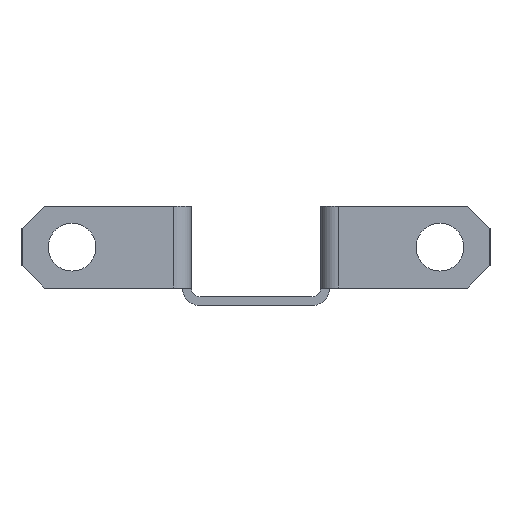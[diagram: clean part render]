
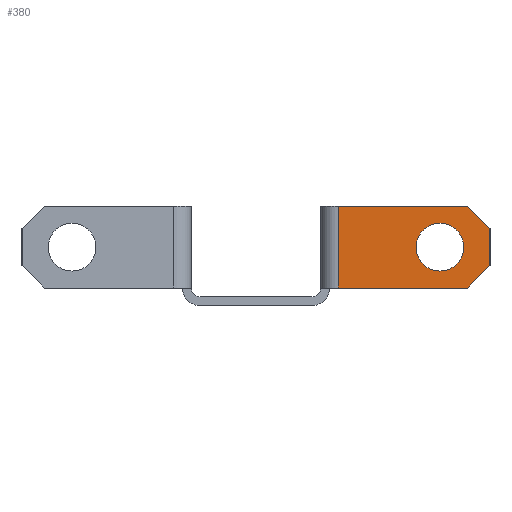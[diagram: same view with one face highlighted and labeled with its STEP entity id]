
A CAD part, left-side view. The second image highlights one B-rep face of the part: STEP entity #380.
In plain terms, the highlighted planar face has unit normal (-1, 0, 0).
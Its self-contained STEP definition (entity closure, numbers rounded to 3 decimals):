
#141 = VERTEX_POINT ( 'NONE', #3031 ) ;
#142 = ORIENTED_EDGE ( 'NONE', *, *, #248, .F. ) ;
#176 = EDGE_CURVE ( 'NONE', #854, #141, #1325, .T. ) ;
#248 = EDGE_CURVE ( 'NONE', #1877, #954, #1486, .T. ) ;
#272 = EDGE_CURVE ( 'NONE', #2413, #3752, #1585, .T. ) ;
#324 = CARTESIAN_POINT ( 'NONE',  ( -142.5, -28.8, 13.5 ) ) ;
#380 = ADVANCED_FACE ( 'NONE', ( #1696, #595 ), #3167, .F. ) ;
#442 = DIRECTION ( 'NONE',  ( 0., -1., 0. ) ) ;
#595 = FACE_OUTER_BOUND ( 'NONE', #3483, .T. ) ;
#636 = ORIENTED_EDGE ( 'NONE', *, *, #1323, .F. ) ;
#724 = CARTESIAN_POINT ( 'NONE',  ( -142.5, -28.25, 7.95 ) ) ;
#777 = CARTESIAN_POINT ( 'NONE',  ( -142.5, -31.8, 5.4 ) ) ;
#784 = ORIENTED_EDGE ( 'NONE', *, *, #272, .T. ) ;
#807 = CARTESIAN_POINT ( 'NONE',  ( -142.5, -28.8, 2.4 ) ) ;
#854 = VERTEX_POINT ( 'NONE', #3133 ) ;
#855 = VERTEX_POINT ( 'NONE', #807 ) ;
#861 = EDGE_LOOP ( 'NONE', ( #142, #1249 ) ) ;
#866 = DIRECTION ( 'NONE',  ( 0., 0.707, 0.707 ) ) ;
#903 = VERTEX_POINT ( 'NONE', #3113 ) ;
#913 = EDGE_CURVE ( 'NONE', #954, #1877, #2435, .T. ) ;
#954 = VERTEX_POINT ( 'NONE', #4226 ) ;
#977 = EDGE_CURVE ( 'NONE', #141, #2413, #1076, .T. ) ;
#1020 = VECTOR ( 'NONE', #2491, 1000. ) ;
#1063 = AXIS2_PLACEMENT_3D ( 'NONE', #1478, #1811, #442 ) ;
#1076 = LINE ( 'NONE', #1574, #3286 ) ;
#1124 = CARTESIAN_POINT ( 'NONE',  ( -142.5, 0., 13.5 ) ) ;
#1249 = ORIENTED_EDGE ( 'NONE', *, *, #913, .F. ) ;
#1317 = EDGE_CURVE ( 'NONE', #855, #854, #3855, .T. ) ;
#1323 = EDGE_CURVE ( 'NONE', #903, #3752, #1528, .T. ) ;
#1325 = LINE ( 'NONE', #1681, #2116 ) ;
#1440 = DIRECTION ( 'NONE',  ( 0., 0., 1. ) ) ;
#1442 = EDGE_CURVE ( 'NONE', #903, #855, #2575, .T. ) ;
#1464 = CARTESIAN_POINT ( 'NONE',  ( -142.5, -25., 7.95 ) ) ;
#1478 = CARTESIAN_POINT ( 'NONE',  ( -142.5, -25., 7.95 ) ) ;
#1486 = CIRCLE ( 'NONE', #1063, 3.25 ) ;
#1491 = CARTESIAN_POINT ( 'NONE',  ( -142.5, -11.2, 13.5 ) ) ;
#1494 = DIRECTION ( 'NONE',  ( 0., 1., 0. ) ) ;
#1528 = LINE ( 'NONE', #3461, #2986 ) ;
#1571 = ORIENTED_EDGE ( 'NONE', *, *, #1442, .T. ) ;
#1574 = CARTESIAN_POINT ( 'NONE',  ( -142.5, -28.8, 13.5 ) ) ;
#1585 = LINE ( 'NONE', #1124, #1750 ) ;
#1681 = CARTESIAN_POINT ( 'NONE',  ( -142.5, -31.8, 0. ) ) ;
#1688 = VECTOR ( 'NONE', #1889, 1000. ) ;
#1696 = FACE_BOUND ( 'NONE', #861, .T. ) ;
#1750 = VECTOR ( 'NONE', #2119, 1000. ) ;
#1811 = DIRECTION ( 'NONE',  ( -1., 0., 0. ) ) ;
#1850 = DIRECTION ( 'NONE',  ( -1., 0., 0. ) ) ;
#1870 = CARTESIAN_POINT ( 'NONE',  ( -142.5, 0., 2.4 ) ) ;
#1877 = VERTEX_POINT ( 'NONE', #724 ) ;
#1889 = DIRECTION ( 'NONE',  ( 0., -1., 0. ) ) ;
#2116 = VECTOR ( 'NONE', #4049, 1000. ) ;
#2119 = DIRECTION ( 'NONE',  ( 0., 1., 0. ) ) ;
#2287 = ORIENTED_EDGE ( 'NONE', *, *, #176, .T. ) ;
#2413 = VERTEX_POINT ( 'NONE', #324 ) ;
#2435 = CIRCLE ( 'NONE', #3163, 3.25 ) ;
#2491 = DIRECTION ( 'NONE',  ( 0., -0.707, 0.707 ) ) ;
#2575 = LINE ( 'NONE', #1870, #1688 ) ;
#2712 = ORIENTED_EDGE ( 'NONE', *, *, #1317, .T. ) ;
#2907 = ORIENTED_EDGE ( 'NONE', *, *, #977, .T. ) ;
#2986 = VECTOR ( 'NONE', #1440, 1000. ) ;
#3031 = CARTESIAN_POINT ( 'NONE',  ( -142.5, -31.8, 10.5 ) ) ;
#3113 = CARTESIAN_POINT ( 'NONE',  ( -142.5, -11.2, 2.4 ) ) ;
#3133 = CARTESIAN_POINT ( 'NONE',  ( -142.5, -31.8, 5.4 ) ) ;
#3144 = DIRECTION ( 'NONE',  ( 1., 0., 0. ) ) ;
#3163 = AXIS2_PLACEMENT_3D ( 'NONE', #1464, #1850, #4153 ) ;
#3167 = PLANE ( 'NONE',  #3983 ) ;
#3286 = VECTOR ( 'NONE', #866, 1000. ) ;
#3461 = CARTESIAN_POINT ( 'NONE',  ( -142.5, -11.2, 13.5 ) ) ;
#3483 = EDGE_LOOP ( 'NONE', ( #1571, #2712, #2287, #2907, #784, #636 ) ) ;
#3752 = VERTEX_POINT ( 'NONE', #1491 ) ;
#3855 = LINE ( 'NONE', #777, #1020 ) ;
#3983 = AXIS2_PLACEMENT_3D ( 'NONE', #4168, #3144, #1494 ) ;
#4049 = DIRECTION ( 'NONE',  ( 0., 0., 1. ) ) ;
#4153 = DIRECTION ( 'NONE',  ( 0., -1., 0. ) ) ;
#4168 = CARTESIAN_POINT ( 'NONE',  ( -142.5, 0., 0. ) ) ;
#4226 = CARTESIAN_POINT ( 'NONE',  ( -142.5, -21.75, 7.95 ) ) ;
